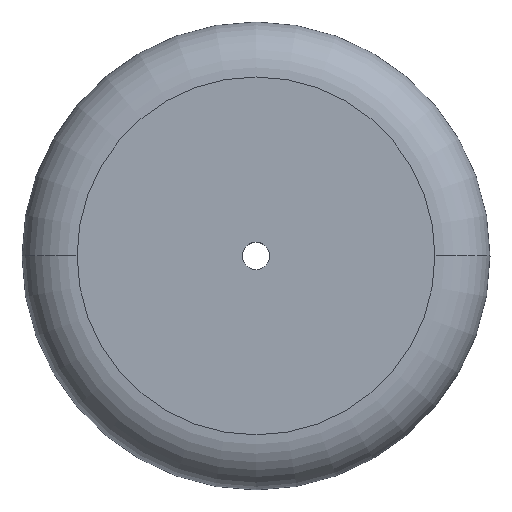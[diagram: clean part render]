
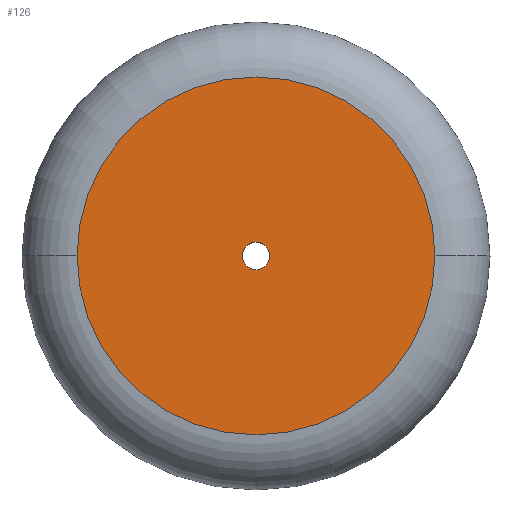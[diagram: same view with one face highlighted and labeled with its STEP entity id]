
A CAD part, top view. The second image highlights one B-rep face of the part: STEP entity #126.
In plain terms, the highlighted planar face has unit normal (0, 0, 1).
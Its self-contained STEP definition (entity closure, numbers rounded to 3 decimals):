
#2 = DIRECTION ( 'NONE',  ( 1., 0., 0. ) ) ;
#3 = EDGE_LOOP ( 'NONE', ( #216, #116 ) ) ;
#7 = EDGE_CURVE ( 'NONE', #215, #197, #115, .T. ) ;
#9 = CARTESIAN_POINT ( 'NONE',  ( 0., 0., 20. ) ) ;
#18 = CARTESIAN_POINT ( 'NONE',  ( -65., 0., 20. ) ) ;
#19 = CARTESIAN_POINT ( 'NONE',  ( 0., 0., 20. ) ) ;
#20 = VERTEX_POINT ( 'NONE', #18 ) ;
#34 = DIRECTION ( 'NONE',  ( 1., 0., 0. ) ) ;
#35 = ORIENTED_EDGE ( 'NONE', *, *, #41, .T. ) ;
#37 = CIRCLE ( 'NONE', #235, 5. ) ;
#41 = EDGE_CURVE ( 'NONE', #141, #20, #102, .T. ) ;
#44 = AXIS2_PLACEMENT_3D ( 'NONE', #19, #196, #180 ) ;
#46 = CARTESIAN_POINT ( 'NONE',  ( 5., 0., 20. ) ) ;
#65 = CARTESIAN_POINT ( 'NONE',  ( -5., 0., 20. ) ) ;
#76 = CARTESIAN_POINT ( 'NONE',  ( 0., 0., 20. ) ) ;
#85 = FACE_OUTER_BOUND ( 'NONE', #250, .T. ) ;
#99 = DIRECTION ( 'NONE',  ( 0., 0., 1. ) ) ;
#102 = CIRCLE ( 'NONE', #200, 65. ) ;
#105 = DIRECTION ( 'NONE',  ( 1., 0., 0. ) ) ;
#115 = CIRCLE ( 'NONE', #44, 5. ) ;
#116 = ORIENTED_EDGE ( 'NONE', *, *, #7, .F. ) ;
#122 = EDGE_CURVE ( 'NONE', #197, #215, #37, .T. ) ;
#126 = ADVANCED_FACE ( 'NONE', ( #85, #201 ), #223, .T. ) ;
#141 = VERTEX_POINT ( 'NONE', #186 ) ;
#145 = DIRECTION ( 'NONE',  ( 0., 0., 1. ) ) ;
#154 = CIRCLE ( 'NONE', #198, 65. ) ;
#180 = DIRECTION ( 'NONE',  ( 1., 0., 0. ) ) ;
#186 = CARTESIAN_POINT ( 'NONE',  ( 65., 0., 20. ) ) ;
#190 = DIRECTION ( 'NONE',  ( 0., 0., 1. ) ) ;
#196 = DIRECTION ( 'NONE',  ( 0., 0., 1. ) ) ;
#197 = VERTEX_POINT ( 'NONE', #225 ) ;
#198 = AXIS2_PLACEMENT_3D ( 'NONE', #241, #190, #34 ) ;
#200 = AXIS2_PLACEMENT_3D ( 'NONE', #76, #99, #2 ) ;
#201 = FACE_BOUND ( 'NONE', #3, .T. ) ;
#215 = VERTEX_POINT ( 'NONE', #65 ) ;
#216 = ORIENTED_EDGE ( 'NONE', *, *, #122, .F. ) ;
#220 = DIRECTION ( 'NONE',  ( 1., 0., 0. ) ) ;
#222 = DIRECTION ( 'NONE',  ( 0., 0., 1. ) ) ;
#223 = PLANE ( 'NONE',  #226 ) ;
#224 = EDGE_CURVE ( 'NONE', #20, #141, #154, .T. ) ;
#225 = CARTESIAN_POINT ( 'NONE',  ( 5., 0., 20. ) ) ;
#226 = AXIS2_PLACEMENT_3D ( 'NONE', #46, #222, #220 ) ;
#235 = AXIS2_PLACEMENT_3D ( 'NONE', #9, #145, #105 ) ;
#241 = CARTESIAN_POINT ( 'NONE',  ( 0., 0., 20. ) ) ;
#249 = ORIENTED_EDGE ( 'NONE', *, *, #224, .T. ) ;
#250 = EDGE_LOOP ( 'NONE', ( #35, #249 ) ) ;
